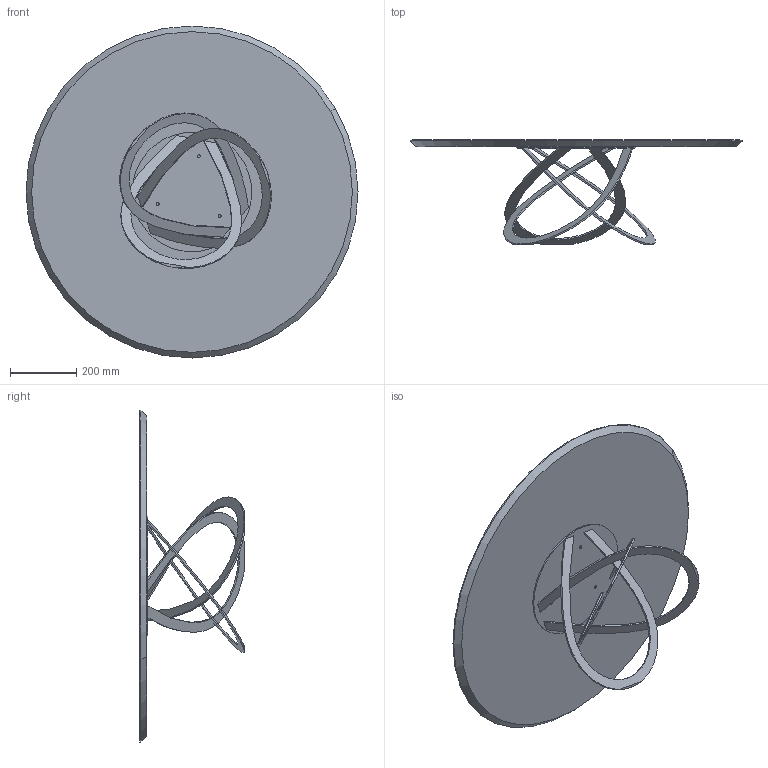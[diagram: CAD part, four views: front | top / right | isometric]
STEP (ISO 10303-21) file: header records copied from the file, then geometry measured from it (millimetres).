
FILE_DESCRIPTION (( 'STEP AP203' ), '1' );
FILE_NAME ('FL12W_Febe Low_d80xh32_Wood.STEP', '2024-08-06T08:57:47', ( '' ), ( '' ), 'SwSTEP 2.0', 'SolidWorks 2022', '' );
FILE_SCHEMA (( 'CONFIG_CONTROL_DESIGN' ));
Length unit declared in the file: millimetre
Products named in the file (5): FL12W_Febe Low_d80xh32_Wood; FET000000XX-00-FEBE STRUTTURA BASE H.XXcm_FEBE 60; W1XCMXX-00-Piani Rotondi legno_D.1000 SP.20cm; FET00000032_01-00-FEBE DISCO METALLO SUPERIORE H.32cm_POS. gambe 380; FET00000032_02-00-FEBE GAMBA PER H.32cm_gamba per febe 60
Assembly tree (6 placements, depth 3):
  FL12W_Febe Low_d80xh32_Wood
    W1XCMXX-00-Piani Rotondi legno_D.1000 SP.20cm
    FET000000XX-00-FEBE STRUTTURA BASE H.XXcm_FEBE 60
      FET00000032_02-00-FEBE GAMBA PER H.32cm_gamba per febe 60  x3
      FET00000032_01-00-FEBE DISCO METALLO SUPERIORE H.32cm_POS. gambe 380
Bounding box: 1000 x 313.55 x 1000 mm (x, y, z)
Volume: 16196669 mm3; surface area: 2060087.1 mm2
Topology: 5 solids, 5 shells, 89 faces, 206 edges, 129 vertices
Faces by surface type: plane 37, cylinder 24, bspline 18, cone 10
Entity records: 2863 total; most frequent: CARTESIAN_POINT 730, DIRECTION 324, ORIENTED_EDGE 316, EDGE_CURVE 158, AXIS2_PLACEMENT_3D 121, VERTEX_POINT 103, EDGE_LOOP 87, LINE 82
